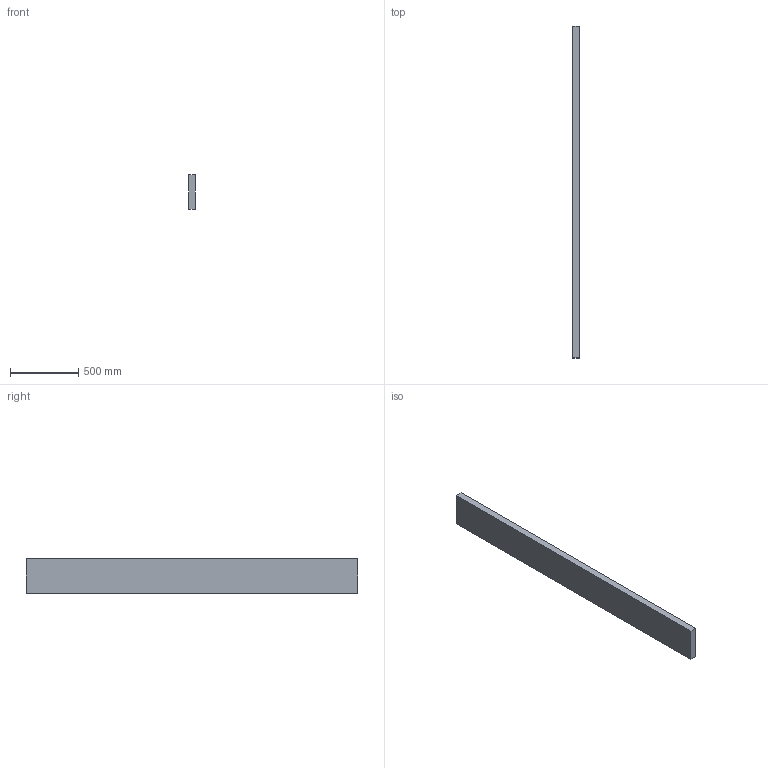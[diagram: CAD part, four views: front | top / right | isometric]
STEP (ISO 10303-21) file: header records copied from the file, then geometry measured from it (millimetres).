
FILE_DESCRIPTION(/* description */ (''),/* implementation_level */ '2;1');
FILE_NAME(/* name */ 'SM_Baffle2x10x96',/* time_stamp */ '2024-10-15T11:57:07-05:00',/* author */ (''),/* organization */ (''),/* preprocessor_version */ 'ST-DEVELOPER v19.2',/* originating_system */ 'Rhino 8.4',/* authorisation */ '');
FILE_SCHEMA (('CONFIG_CONTROL_DESIGN'));
Length unit declared in the file: inch
Products named in the file (1): Document
Bounding box: 50.8 x 2438.4 x 254 mm (x, y, z)
Volume: 31463162.9 mm3; surface area: 1512255 mm2
Topology: 1 solids, 1 shells, 6 faces, 12 edges, 8 vertices
Faces by surface type: plane 6
Entity records: 226 total; most frequent: CARTESIAN_POINT 40, ORIENTED_EDGE 24, EDGE_CURVE 12, B_SPLINE_CURVE_WITH_KNOTS 12, DIRECTION 10, VERTEX_POINT 8, AXIS2_PLACEMENT_3D 8, ORGANIZATION 7
